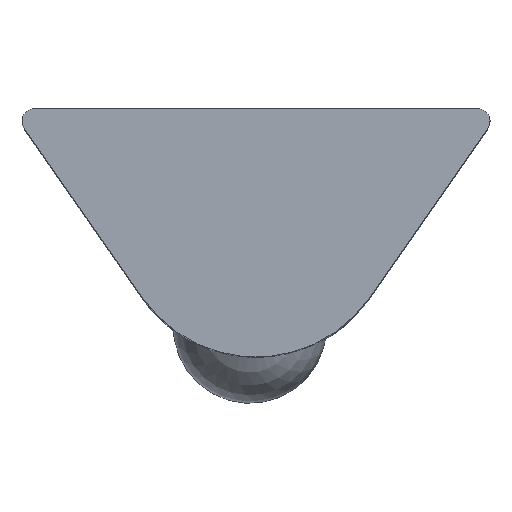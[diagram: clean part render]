
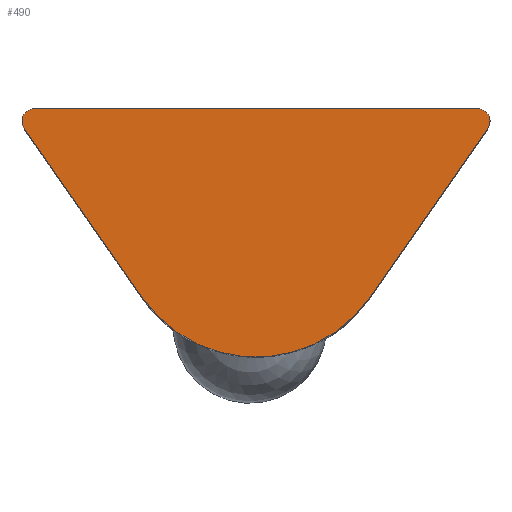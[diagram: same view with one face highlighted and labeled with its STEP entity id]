
A CAD part, top view. The second image highlights one B-rep face of the part: STEP entity #490.
In plain terms, the highlighted planar face has unit normal (0, 0, 1).
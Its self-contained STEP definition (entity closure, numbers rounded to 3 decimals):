
#178=CARTESIAN_POINT('',(10.781,-7.625,12.));
#179=VERTEX_POINT('',#178);
#186=CARTESIAN_POINT('',(8.845,-10.398,12.));
#187=VERTEX_POINT('',#186);
#188=CARTESIAN_POINT('',(10.781,-7.625,12.));
#189=DIRECTION('',(-0.572,-0.82,0.0));
#190=VECTOR('',#189,3.382);
#191=LINE('',#188,#190);
#192=EDGE_CURVE('',#179,#187,#191,.T.);
#316=CARTESIAN_POINT('',(10.617,-7.311,12.));
#317=VERTEX_POINT('',#316);
#318=CARTESIAN_POINT('',(10.617,-7.511,12.));
#319=DIRECTION('',(0.0,0.0,-1.0));
#320=DIRECTION('',(0.887,0.462,0.0));
#321=AXIS2_PLACEMENT_3D('',#318,#319,#320);
#322=CIRCLE('',#321,0.2);
#323=EDGE_CURVE('',#317,#179,#322,.T.);
#358=CARTESIAN_POINT('',(3.383,-7.311,12.));
#359=VERTEX_POINT('',#358);
#366=CARTESIAN_POINT('',(3.383,-7.311,12.));
#367=DIRECTION('',(1.0,0.0,0.0));
#368=VECTOR('',#367,7.233);
#369=LINE('',#366,#368);
#370=EDGE_CURVE('',#359,#317,#369,.T.);
#410=CARTESIAN_POINT('',(3.219,-7.625,12.));
#411=VERTEX_POINT('',#410);
#412=CARTESIAN_POINT('',(3.383,-7.511,12.));
#413=DIRECTION('',(0.0,0.0,-1.0));
#414=DIRECTION('',(-0.887,0.462,0.0));
#415=AXIS2_PLACEMENT_3D('',#412,#413,#414);
#416=CIRCLE('',#415,0.2);
#417=EDGE_CURVE('',#411,#359,#416,.T.);
#436=CARTESIAN_POINT('',(5.155,-10.398,12.));
#437=VERTEX_POINT('',#436);
#444=CARTESIAN_POINT('',(5.155,-10.398,12.));
#445=DIRECTION('',(-0.572,0.82,0.0));
#446=VECTOR('',#445,3.382);
#447=LINE('',#444,#446);
#448=EDGE_CURVE('',#437,#411,#447,.T.);
#463=CARTESIAN_POINT('',(7.,-9.111,12.));
#464=DIRECTION('',(0.0,0.0,-1.));
#465=DIRECTION('',(-0.6,0.8,0.0));
#466=AXIS2_PLACEMENT_3D('',#463,#464,#465);
#467=CIRCLE('',#466,2.25);
#468=EDGE_CURVE('',#187,#437,#467,.T.);
#477=CARTESIAN_POINT('',(9.522,-8.419,12.));
#478=DIRECTION('',(0.0,0.0,1.0));
#479=DIRECTION('',(1.0,0.0,0.0));
#480=AXIS2_PLACEMENT_3D('',#477,#478,#479);
#481=PLANE('',#480);
#482=ORIENTED_EDGE('',*,*,#323,.F.);
#483=ORIENTED_EDGE('',*,*,#370,.F.);
#484=ORIENTED_EDGE('',*,*,#417,.F.);
#485=ORIENTED_EDGE('',*,*,#448,.F.);
#486=ORIENTED_EDGE('',*,*,#468,.F.);
#487=ORIENTED_EDGE('',*,*,#192,.F.);
#488=EDGE_LOOP('',(#482,#483,#484,#485,#486,#487));
#489=FACE_OUTER_BOUND('',#488,.T.);
#490=ADVANCED_FACE('',(#489),#481,.T.);
